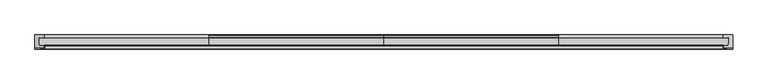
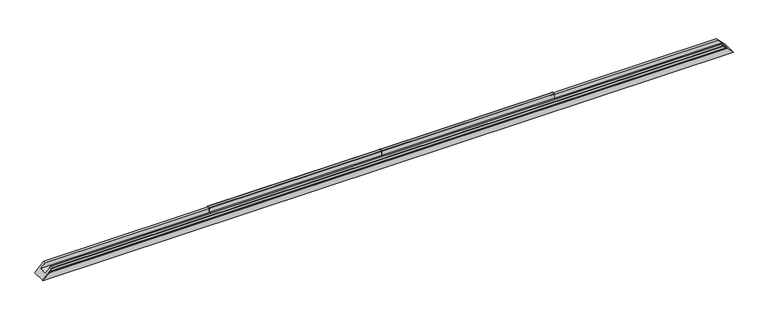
"""IFC4 building model written with IfcOpenShell, lengths in millimetres: proxy geometry, Weiku - Montante - Caixilho duplo 02.2.01.002 : Weiku - Montante - Caixilho duplo 02.2.01.002."""

from ifc_helpers import new_model, si_unit, point, frame, frame_2d, origin, place, context, project, spatial, polyline, circle_curve, ellipse_curve, trimmed, segment, composite_curve, outline, extrude, faceted_brep, source, transform, mapped, element, save
from ifc_brep_helpers import plane_surface, cylinder_surface, revolved_surface, advanced_brep


def generic_models_b45ea4a2(model_context):
    return source(origin(), model_context, "Body", "SolidModel", [
        extrude(outline(composite_curve([segment(polyline([(-15.0, 52.0), (-15.0, 26.0), (-62.0, 23.7770256), (-62.0, 52.0), (-60.0, 52.0), (-60.0, 26.8749739), (-17.0, 28.908759), (-17.0, 55.0)]), True, "CONTINUOUS"), segment(trimmed(circle_curve(frame_2d((-16.0, 55.0)), 1.0), [point((-17.0, 55.0))], [point((-16.0, 56.0))], False, "CARTESIAN"), True, "CONTINUOUS"), segment(polyline([(-16.0, 56.0), (-1.0, 56.0)]), True, "CONTINUOUS"), segment(trimmed(circle_curve(frame_2d((-1.0, 55.0)), 1.0), [point((-1.0, 56.0))], [point((0.0, 55.0))], False, "CARTESIAN"), True, "CONTINUOUS"), segment(polyline([(0.0, 55.0), (0.0, 52.0), (-15.0, 52.0)]), True, "CONTINUOUS")], self_intersect=False)), frame((0.0, 0.0, 0.0), z_axis=(1.0, 0.0, 0.0), x_axis=(0.0, 1.0, 0.0)), (0.0, 0.0, 1.0), 997.5),
        extrude(outline(composite_curve([segment(polyline([(-15.0, 52.0), (-15.0, 26.0), (-62.0, 23.7770256), (-62.0, 52.0), (-60.0, 52.0), (-60.0, 26.8749739), (-17.0, 28.908759), (-17.0, 55.0)]), True, "CONTINUOUS"), segment(trimmed(circle_curve(frame_2d((-16.0, 55.0)), 1.0), [point((-17.0, 55.0))], [point((-16.0, 56.0))], False, "CARTESIAN"), True, "CONTINUOUS"), segment(polyline([(-16.0, 56.0), (-1.0, 56.0)]), True, "CONTINUOUS"), segment(trimmed(circle_curve(frame_2d((-1.0, 55.0)), 1.0), [point((-1.0, 56.0))], [point((0.0, 55.0))], False, "CARTESIAN"), True, "CONTINUOUS"), segment(polyline([(0.0, 55.0), (0.0, 52.0), (-15.0, 52.0)]), True, "CONTINUOUS")], self_intersect=False)), frame((-997.5, 0.0, 0.0), z_axis=(1.0, 0.0, 0.0), x_axis=(0.0, 1.0, 0.0)), (0.0, 0.0, 1.0), 997.5),
        advanced_brep(
        [(-1943.0, -60.0, 52.0), (-1943.0, -77.0, 52.0), (-1995.0, -77.0, 0.0), (-1995.0, -81.0, 0.0), (-1960.0, -81.0, 35.0), (-1957.0, -80.0, 38.0), (-1954.0, -79.0, 41.0), (-1940.0, -79.0, 55.0), (-1939.0, -78.0, 56.0), (-1939.0, -61.0, 56.0), (-1940.0, -60.0, 55.0), (1940.0, -60.0, 55.0), (1943.0, -60.0, 52.0), (1939.0, -61.0, 56.0), (1939.0, -78.0, 56.0), (1940.0, -79.0, 55.0), (1954.0, -79.0, 41.0), (1957.0, -80.0, 38.0), (1960.0, -81.0, 35.0), (1995.0, -81.0, 0.0), (1995.0, -77.0, 0.0), (1943.0, -77.0, 52.0)],
        [
            (0, 1),
            (1, 2),
            (2, 3),
            (3, 4),
            (4, 5, ellipse_curve(frame((-1960.0, -76.0, 35.0), z_axis=(-0.7071067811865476, 0.0, 0.7071067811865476), x_axis=(-0.7071067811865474, 0.0, -0.7071067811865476)), 7.0710678, 5.0)),
            (5, 6, ellipse_curve(frame((-1954.0, -84.0, 41.0), z_axis=(0.7071067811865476, 0.0, -0.7071067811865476), x_axis=(0.7071067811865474, 0.0, 0.7071067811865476)), 7.0710678, 5.0)),
            (6, 7),
            (7, 8, ellipse_curve(frame((-1940.0, -78.0, 55.0), z_axis=(-0.7071067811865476, 0.0, 0.7071067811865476), x_axis=(-0.7071067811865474, 0.0, -0.7071067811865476)), 1.4142136, 1.0)),
            (8, 9),
            (9, 10, ellipse_curve(frame((-1940.0, -61.0, 55.0), z_axis=(-0.7071067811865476, 0.0, 0.7071067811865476), x_axis=(-0.7071067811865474, 0.0, -0.7071067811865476)), 1.4142136, 1.0)),
            (10, 0),
            (10, 11),
            (11, 12),
            (12, 0),
            (9, 13),
            (13, 11, ellipse_curve(frame((1940.0, -61.0, 55.0), z_axis=(-0.7071067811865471, 0.0, -0.7071067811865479), x_axis=(-0.7071067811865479, 0.0, 0.7071067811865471)), 1.4142136, 1.0)),
            (8, 14),
            (14, 13),
            (7, 15),
            (15, 14, ellipse_curve(frame((1940.0, -78.0, 55.0), z_axis=(-0.7071067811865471, 0.0, -0.7071067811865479), x_axis=(-0.7071067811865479, 0.0, 0.7071067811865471)), 1.4142136, 1.0)),
            (6, 16),
            (16, 15),
            (5, 17),
            (17, 16, ellipse_curve(frame((1954.0, -84.0, 41.0), z_axis=(0.7071067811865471, 0.0, 0.7071067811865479), x_axis=(0.7071067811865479, 0.0, -0.7071067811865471)), 7.0710678, 5.0)),
            (4, 18),
            (18, 17, ellipse_curve(frame((1960.0, -76.0, 35.0), z_axis=(-0.7071067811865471, 0.0, -0.7071067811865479), x_axis=(-0.7071067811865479, 0.0, 0.7071067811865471)), 7.0710678, 5.0)),
            (19, 18),
            (3, 19),
            (2, 20),
            (20, 19),
            (1, 21),
            (21, 20),
            (12, 21),
        ],
        [
            plane_surface(frame((-1995.0, 0.0, 0.0), z_axis=(-0.7071067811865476, 0.0, 0.7071067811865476), x_axis=(0.0, -1.0, 0.0))),
            plane_surface(frame((-1995.0, -60.0, 52.0), z_axis=(0.0, 1.0, 0.0), x_axis=(1.0, 0.0, 0.0))),
            cylinder_surface(frame((-1995.0, -61.0, 55.0), z_axis=(-1.0, 0.0, 0.0), x_axis=(0.0, -1.0, 0.0)), 1.0),
            plane_surface(frame((-1995.0, -61.0, 56.0), z_axis=(0.0, 0.0, 1.0), x_axis=(1.0, 0.0, 0.0))),
            cylinder_surface(frame((-1995.0, -78.0, 55.0), z_axis=(-1.0, 0.0, 0.0), x_axis=(0.0, -1.0, 0.0)), 1.0),
            plane_surface(frame((-1995.0, -79.0, 55.0), z_axis=(0.0, -1.0, 0.0), x_axis=(1.0, 0.0, 0.0))),
            revolved_surface(polyline([(1958.99999999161, -89.0, 41.0), (-1958.99999999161, -89.0, 41.0)]), (-1995.0, -84.0, 41.0), (1.0, 0.0, 0.0)),
            cylinder_surface(frame((-1995.0, -76.0, 35.0), z_axis=(-1.0, 0.0, 0.0), x_axis=(0.0, -1.0, 0.0)), 5.0),
            plane_surface(frame((-1995.0, -81.0, 35.0), z_axis=(0.0, -1.0, 0.0), x_axis=(1.0, 0.0, 0.0))),
            plane_surface(frame((-1995.0, -81.0, 0.0), z_axis=(0.0, 0.0, -1.0), x_axis=(1.0, 0.0, 0.0))),
            plane_surface(frame((-1995.0, -77.0, 0.0), z_axis=(0.0, 1.0, 0.0), x_axis=(1.0, 0.0, 0.0))),
            plane_surface(frame((-1995.0, -77.0, 52.0), z_axis=(0.0, 0.0, -1.0), x_axis=(1.0, 0.0, 0.0))),
            plane_surface(frame((1925.0, 0.0, 70.0), z_axis=(0.7071067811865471, 0.0, 0.7071067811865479), x_axis=(0.0, -1.0, 0.0))),
        ],
        [
            (0, [[1, 2, 3, 4, 5, 6, 7, 8, 9, 10, 11]]),
            (1, [[12, 13, 14, -11]]),
            (2, [[15, 16, -12, -10]]),
            (3, [[17, 18, -15, -9]]),
            (4, [[19, 20, -17, -8]]),
            (5, [[21, 22, -19, -7]]),
            (6, [[23, 24, -21, -6]]),
            (7, [[25, 26, -23, -5]]),
            (8, [[27, -25, -4, 28]]),
            (9, [[-3, 29, 30, -28]]),
            (10, [[-2, 31, 32, -29]]),
            (11, [[-14, 33, -31, -1]]),
            (12, [[-16, -18, -20, -22, -24, -26, -27, -30, -32, -33, -13]]),
        ],
    ),
        faceted_brep([(-1969.0, -15.0, 26.0), (1969.0, -15.0, 26.0), (1943.0, -15.0, 52.0), (-1943.0, -15.0, 52.0), (-1971.2229744, -62.0, 23.7770256), (1971.2229744, -62.0, 23.7770256), (-1943.0, -62.0, 52.0), (1943.0, -62.0, 52.0), (-1943.0, -77.0, 52.0), (1943.0, -77.0, 52.0), (1995.0, -77.0, 0.0), (-1995.0, -77.0, 0.0), (-1995.0, 0.0, 0.0), (1995.0, 0.0, 0.0), (-1943.0, 0.0, 52.0), (1943.0, 0.0, 52.0)], [[[0, 1, 2, 3]], [[4, 5, 1, 0]], [[6, 7, 5, 4]], [[8, 9, 7, 6]], [[10, 9, 8, 11]], [[11, 12, 13, 10]], [[12, 14, 15, 13]], [[3, 2, 15, 14]], [[3, 14, 12, 11, 8, 6, 4, 0]], [[1, 5, 7, 9, 10, 13, 15, 2]]]),
    ])


if __name__ == "__main__":
    model = new_model("IFC4")
    model_context = context("Model", 3, world=origin())
    ifc_project = project(units=[si_unit("LENGTHUNIT", "METRE", prefix="MILLI")], contexts=[model_context])
    site = spatial("IfcSite", under=ifc_project)
    building = spatial("IfcBuilding", under=site)
    placement = place(None, origin())
    generic_models_shape = generic_models_b45ea4a2(model_context)
    element("IfcBuildingElementProxy", 1, Name="Weiku - Montante - Caixilho duplo 02.2.01.002 : Weiku - Montante - Caixilho duplo 02.2.01.002", ObjectType="Weiku - Montante - Caixilho duplo 02.2.01.002 : Weiku - Montante - Caixilho duplo 02.2.01.002", at=placement, inside=building, context=model_context, shape_type="MappedRepresentation", body=[
        mapped(generic_models_shape, transform((0.0, 0.0, 0.0), x_axis=(1.0, 0.0, 0.0), y_axis=(0.0, 1.0, 0.0), z_axis=(0.0, 0.0, 1.0))),
    ])
    save(model, "model.ifc")
